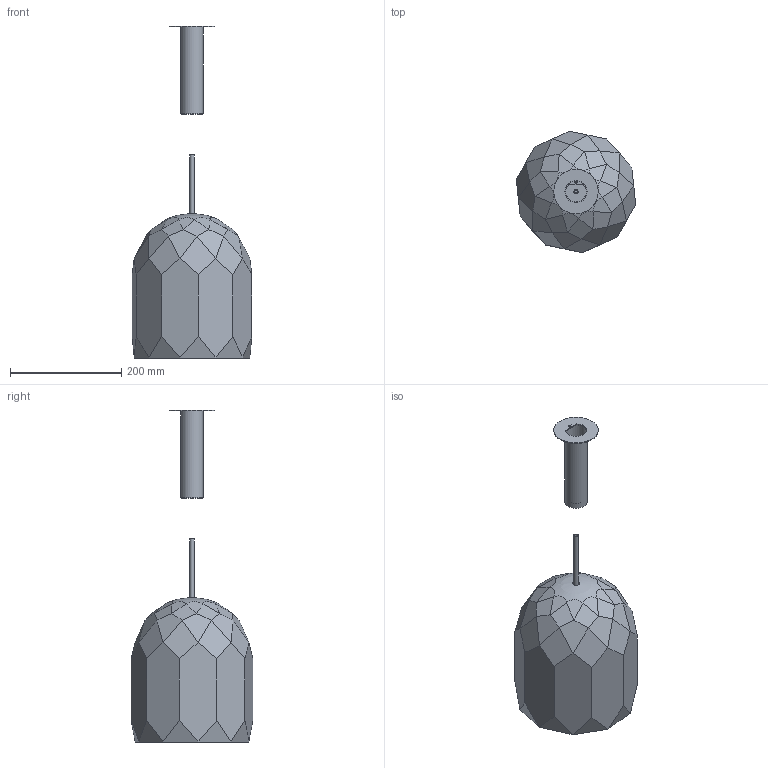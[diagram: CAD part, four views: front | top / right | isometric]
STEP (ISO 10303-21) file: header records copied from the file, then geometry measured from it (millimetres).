
FILE_DESCRIPTION(/* description */ (''),/* implementation_level */ '2;1');
FILE_NAME(/* name */ 'D:\Users\boris.ha\Desktop\Collections\Polygon\Pendant\Polygon.stp',/* time_stamp */ '2017-11-24T08:14:42+01:00',/* author */ ('boris.ha'),/* organization */ (''),/* preprocessor_version */ 'ST-DEVELOPER v16.13',/* originating_system */ 'Autodesk Inventor 2018',/* authorisation */ '');
FILE_SCHEMA (('AUTOMOTIVE_DESIGN { 1 0 10303 214 3 1 1 }'));
Length unit declared in the file: millimetre
Products named in the file (1): Polygon
Bounding box: 215.26 x 218.76 x 597.83 mm (x, y, z)
Volume: 3587912.7 mm3; surface area: 371344.5 mm2
Topology: 6 solids, 6 shells, 103 faces, 214 edges, 123 vertices
Faces by surface type: plane 73, cylinder 16, cone 10, sphere 2, bspline 2
Full cylindrical faces by diameter (mm): 2.459 x1, 3 x2, 4.1 x1, 6 x1, 7 x1, 8 x1, 12 x1, 14 x1, 17 x1, 37 x2, 40 x1, 80 x1, 160 x1
Entity records: 2950 total; most frequent: CARTESIAN_POINT 698, DIRECTION 428, ORIENTED_EDGE 364, EDGE_CURVE 182, AXIS2_PLACEMENT_3D 152, EDGE_LOOP 148, LINE 124, VECTOR 124
